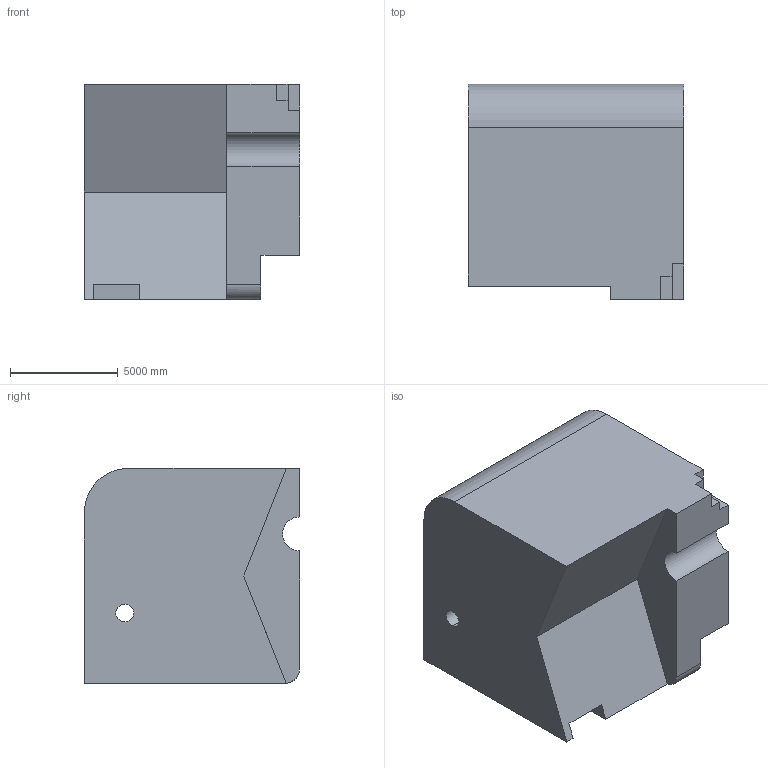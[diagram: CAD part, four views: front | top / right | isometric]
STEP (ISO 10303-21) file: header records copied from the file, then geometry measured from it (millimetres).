
FILE_DESCRIPTION (( 'STEP AP203' ), '1' );
FILE_NAME ('99.STEP', '2022-09-01T12:11:51', ( 'user' ), ( '' ), 'SwSTEP 2.0', 'SolidWorks 2021', '' );
FILE_SCHEMA (( 'CONFIG_CONTROL_DESIGN' ));
Length unit declared in the file: centimetre
Products named in the file (1): 99
Bounding box: 10000 x 10000 x 10000 mm (x, y, z)
Volume: 814195872886.4 mm3; surface area: 626136411.5 mm2
Topology: 1 solids, 1 shells, 33 faces, 96 edges, 64 vertices
Faces by surface type: plane 27, cylinder 6
Entity records: 1170 total; most frequent: CARTESIAN_POINT 194, ORIENTED_EDGE 192, DIRECTION 179, EDGE_CURVE 96, VECTOR 81, LINE 81, VERTEX_POINT 64, AXIS2_PLACEMENT_3D 49
